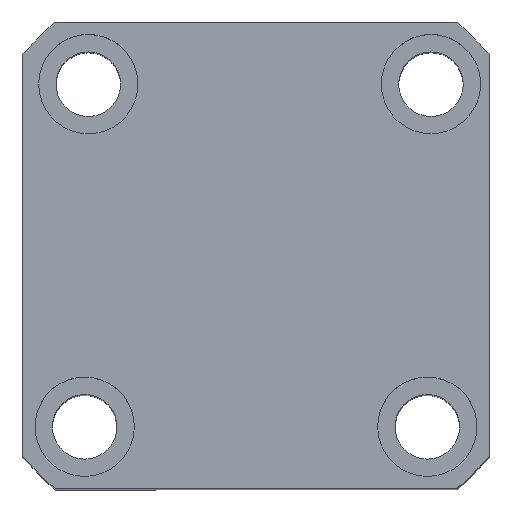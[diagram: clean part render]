
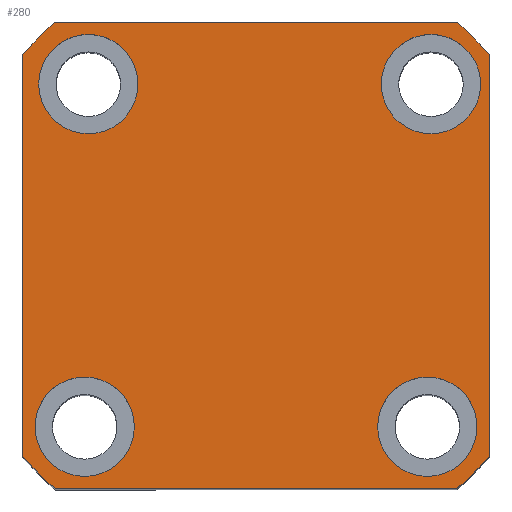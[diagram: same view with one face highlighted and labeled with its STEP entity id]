
A CAD part, top view. The second image highlights one B-rep face of the part: STEP entity #280.
In plain terms, the highlighted planar face has unit normal (0, 0, 1) as drawn and (0, 0, -1) by its records, which use the part's own axes.
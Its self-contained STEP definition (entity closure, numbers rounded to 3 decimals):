
#122 = AXIS2_PLACEMENT_3D ( 'NONE', #4724, #14419, #6133 ) ;
#186 = ORIENTED_EDGE ( 'NONE', *, *, #3274, .F. ) ;
#280 = ADVANCED_FACE ( 'NONE', ( #16568, #16153, #5155, #1495, #15743 ), #1719, .F. ) ;
#302 = CIRCLE ( 'NONE', #15921, 10. ) ;
#514 = CIRCLE ( 'NONE', #8812, 10. ) ;
#608 = DIRECTION ( 'NONE',  ( -1., 0., 0. ) ) ;
#612 = EDGE_CURVE ( 'NONE', #3852, #13703, #7099, .T. ) ;
#655 = DIRECTION ( 'NONE',  ( 1., 0., 0. ) ) ;
#658 = DIRECTION ( 'NONE',  ( -1., 0., 0. ) ) ;
#795 = AXIS2_PLACEMENT_3D ( 'NONE', #16769, #3434, #10312 ) ;
#899 = ORIENTED_EDGE ( 'NONE', *, *, #15005, .F. ) ;
#1146 = CIRCLE ( 'NONE', #6375, 10. ) ;
#1287 = ORIENTED_EDGE ( 'NONE', *, *, #15235, .F. ) ;
#1495 = FACE_BOUND ( 'NONE', #8437, .T. ) ;
#1531 = VERTEX_POINT ( 'NONE', #10647 ) ;
#1542 = LINE ( 'NONE', #12365, #4764 ) ;
#1691 = DIRECTION ( 'NONE',  ( 0., 0., -1. ) ) ;
#1719 = PLANE ( 'NONE',  #795 ) ;
#1720 = VECTOR ( 'NONE', #658, 1000. ) ;
#1858 = CARTESIAN_POINT ( 'NONE',  ( 35.23, -34.5, 0. ) ) ;
#1928 = CIRCLE ( 'NONE', #14465, 62. ) ;
#1970 = CARTESIAN_POINT ( 'NONE',  ( -47., 47., 0. ) ) ;
#2080 = DIRECTION ( 'NONE',  ( -1., 0., 0. ) ) ;
#2138 = DIRECTION ( 'NONE',  ( 0., 0., -1. ) ) ;
#2191 = VERTEX_POINT ( 'NONE', #9361 ) ;
#2252 = CARTESIAN_POINT ( 'NONE',  ( -33.77, -34.5, 0. ) ) ;
#2334 = DIRECTION ( 'NONE',  ( 0., 0., -1. ) ) ;
#2363 = CIRCLE ( 'NONE', #9810, 10. ) ;
#2417 = DIRECTION ( 'NONE',  ( 0., 0., -1. ) ) ;
#2507 = EDGE_LOOP ( 'NONE', ( #1287, #186, #5000, #14074, #13285, #6756, #4768, #3028 ) ) ;
#2651 = CIRCLE ( 'NONE', #13768, 10. ) ;
#2855 = VERTEX_POINT ( 'NONE', #12944 ) ;
#2992 = CARTESIAN_POINT ( 'NONE',  ( -43.77, -34.5, 0. ) ) ;
#3021 = LINE ( 'NONE', #7216, #5810 ) ;
#3028 = ORIENTED_EDGE ( 'NONE', *, *, #3461, .F. ) ;
#3274 = EDGE_CURVE ( 'NONE', #8028, #5774, #3021, .T. ) ;
#3303 = CIRCLE ( 'NONE', #122, 10. ) ;
#3375 = DIRECTION ( 'NONE',  ( 0., 0., 1. ) ) ;
#3408 = ORIENTED_EDGE ( 'NONE', *, *, #11684, .F. ) ;
#3434 = DIRECTION ( 'NONE',  ( 0., 0., 1. ) ) ;
#3461 = EDGE_CURVE ( 'NONE', #11903, #6392, #9057, .T. ) ;
#3588 = VERTEX_POINT ( 'NONE', #17497 ) ;
#3642 = DIRECTION ( 'NONE',  ( -1., 0., 0. ) ) ;
#3755 = VERTEX_POINT ( 'NONE', #6660 ) ;
#3852 = VERTEX_POINT ( 'NONE', #4184 ) ;
#4184 = CARTESIAN_POINT ( 'NONE',  ( 45.23, -34.5, 0. ) ) ;
#4204 = ORIENTED_EDGE ( 'NONE', *, *, #10829, .F. ) ;
#4254 = VERTEX_POINT ( 'NONE', #12991 ) ;
#4262 = EDGE_CURVE ( 'NONE', #2855, #1531, #2363, .T. ) ;
#4278 = EDGE_CURVE ( 'NONE', #3588, #4254, #1928, .T. ) ;
#4411 = CARTESIAN_POINT ( 'NONE',  ( -47., -47., 0. ) ) ;
#4724 = CARTESIAN_POINT ( 'NONE',  ( -34.5, 34.5, 0. ) ) ;
#4764 = VECTOR ( 'NONE', #6889, 1000. ) ;
#4768 = ORIENTED_EDGE ( 'NONE', *, *, #7662, .F. ) ;
#5000 = ORIENTED_EDGE ( 'NONE', *, *, #17628, .F. ) ;
#5155 = FACE_BOUND ( 'NONE', #15081, .T. ) ;
#5637 = AXIS2_PLACEMENT_3D ( 'NONE', #14596, #6307, #15947 ) ;
#5774 = VERTEX_POINT ( 'NONE', #11564 ) ;
#5810 = VECTOR ( 'NONE', #9991, 1000. ) ;
#6006 = AXIS2_PLACEMENT_3D ( 'NONE', #10692, #2417, #12106 ) ;
#6133 = DIRECTION ( 'NONE',  ( -1., 0., 0. ) ) ;
#6248 = AXIS2_PLACEMENT_3D ( 'NONE', #6847, #16468, #8249 ) ;
#6276 = EDGE_CURVE ( 'NONE', #11205, #6970, #8389, .T. ) ;
#6307 = DIRECTION ( 'NONE',  ( 0., 0., 1. ) ) ;
#6375 = AXIS2_PLACEMENT_3D ( 'NONE', #10604, #2334, #12020 ) ;
#6392 = VERTEX_POINT ( 'NONE', #17440 ) ;
#6660 = CARTESIAN_POINT ( 'NONE',  ( -47., 40.435, 0. ) ) ;
#6756 = ORIENTED_EDGE ( 'NONE', *, *, #17197, .F. ) ;
#6847 = CARTESIAN_POINT ( 'NONE',  ( 0., 0., 0. ) ) ;
#6889 = DIRECTION ( 'NONE',  ( 0., -1., 0. ) ) ;
#6970 = VERTEX_POINT ( 'NONE', #2992 ) ;
#7099 = CIRCLE ( 'NONE', #11908, 10. ) ;
#7216 = CARTESIAN_POINT ( 'NONE',  ( 47., 47., 0. ) ) ;
#7255 = ORIENTED_EDGE ( 'NONE', *, *, #6276, .F. ) ;
#7642 = CARTESIAN_POINT ( 'NONE',  ( 0., 0., 0. ) ) ;
#7662 = EDGE_CURVE ( 'NONE', #6392, #3755, #13529, .T. ) ;
#8028 = VERTEX_POINT ( 'NONE', #9912 ) ;
#8039 = DIRECTION ( 'NONE',  ( 0., 0., -1. ) ) ;
#8249 = DIRECTION ( 'NONE',  ( 1., 0., 0. ) ) ;
#8332 = CARTESIAN_POINT ( 'NONE',  ( 40.435, 47., 0. ) ) ;
#8389 = CIRCLE ( 'NONE', #6006, 10. ) ;
#8437 = EDGE_LOOP ( 'NONE', ( #9140, #3408 ) ) ;
#8812 = AXIS2_PLACEMENT_3D ( 'NONE', #16263, #8039, #17637 ) ;
#8855 = DIRECTION ( 'NONE',  ( 0., 0., -1. ) ) ;
#9021 = DIRECTION ( 'NONE',  ( 1., 0., 0. ) ) ;
#9057 = LINE ( 'NONE', #1970, #1720 ) ;
#9140 = ORIENTED_EDGE ( 'NONE', *, *, #13759, .F. ) ;
#9239 = AXIS2_PLACEMENT_3D ( 'NONE', #7642, #17257, #9021 ) ;
#9361 = CARTESIAN_POINT ( 'NONE',  ( 40.435, -47., 0. ) ) ;
#9810 = AXIS2_PLACEMENT_3D ( 'NONE', #17093, #8855, #608 ) ;
#9912 = CARTESIAN_POINT ( 'NONE',  ( 47., -40.435, 0. ) ) ;
#9943 = ORIENTED_EDGE ( 'NONE', *, *, #612, .F. ) ;
#9991 = DIRECTION ( 'NONE',  ( 0., 1., 0. ) ) ;
#10208 = CIRCLE ( 'NONE', #5637, 62. ) ;
#10312 = DIRECTION ( 'NONE',  ( 1., 0., 0. ) ) ;
#10401 = CIRCLE ( 'NONE', #9239, 62. ) ;
#10413 = CARTESIAN_POINT ( 'NONE',  ( 34.5, 34.5, 0. ) ) ;
#10604 = CARTESIAN_POINT ( 'NONE',  ( 35.23, -34.5, 0. ) ) ;
#10647 = CARTESIAN_POINT ( 'NONE',  ( -44.5, 34.5, 0. ) ) ;
#10692 = CARTESIAN_POINT ( 'NONE',  ( -33.77, -34.5, 0. ) ) ;
#10829 = EDGE_CURVE ( 'NONE', #13703, #3852, #1146, .T. ) ;
#10932 = EDGE_LOOP ( 'NONE', ( #4204, #9943 ) ) ;
#11205 = VERTEX_POINT ( 'NONE', #17663 ) ;
#11564 = CARTESIAN_POINT ( 'NONE',  ( 47., 40.435, 0. ) ) ;
#11657 = CARTESIAN_POINT ( 'NONE',  ( 0., 0., 0. ) ) ;
#11684 = EDGE_CURVE ( 'NONE', #14163, #14746, #514, .T. ) ;
#11823 = DIRECTION ( 'NONE',  ( -1., 0., 0. ) ) ;
#11903 = VERTEX_POINT ( 'NONE', #8332 ) ;
#11908 = AXIS2_PLACEMENT_3D ( 'NONE', #1858, #1691, #2080 ) ;
#11929 = DIRECTION ( 'NONE',  ( 0., 0., -1. ) ) ;
#12020 = DIRECTION ( 'NONE',  ( -1., 0., 0. ) ) ;
#12106 = DIRECTION ( 'NONE',  ( -1., 0., 0. ) ) ;
#12335 = ORIENTED_EDGE ( 'NONE', *, *, #14447, .F. ) ;
#12365 = CARTESIAN_POINT ( 'NONE',  ( -47., 47., 0. ) ) ;
#12944 = CARTESIAN_POINT ( 'NONE',  ( -24.5, 34.5, 0. ) ) ;
#12991 = CARTESIAN_POINT ( 'NONE',  ( -40.435, -47., 0. ) ) ;
#13056 = DIRECTION ( 'NONE',  ( 1., 0., 0. ) ) ;
#13285 = ORIENTED_EDGE ( 'NONE', *, *, #4278, .F. ) ;
#13529 = CIRCLE ( 'NONE', #6248, 62. ) ;
#13703 = VERTEX_POINT ( 'NONE', #14530 ) ;
#13759 = EDGE_CURVE ( 'NONE', #14746, #14163, #302, .T. ) ;
#13768 = AXIS2_PLACEMENT_3D ( 'NONE', #2252, #11929, #3642 ) ;
#14074 = ORIENTED_EDGE ( 'NONE', *, *, #17518, .F. ) ;
#14163 = VERTEX_POINT ( 'NONE', #15399 ) ;
#14419 = DIRECTION ( 'NONE',  ( 0., 0., -1. ) ) ;
#14447 = EDGE_CURVE ( 'NONE', #6970, #11205, #2651, .T. ) ;
#14465 = AXIS2_PLACEMENT_3D ( 'NONE', #11657, #3375, #13056 ) ;
#14519 = VECTOR ( 'NONE', #655, 1000. ) ;
#14530 = CARTESIAN_POINT ( 'NONE',  ( 25.23, -34.5, 0. ) ) ;
#14596 = CARTESIAN_POINT ( 'NONE',  ( 0., 0., 0. ) ) ;
#14746 = VERTEX_POINT ( 'NONE', #17755 ) ;
#15005 = EDGE_CURVE ( 'NONE', #1531, #2855, #3303, .T. ) ;
#15068 = ORIENTED_EDGE ( 'NONE', *, *, #4262, .F. ) ;
#15081 = EDGE_LOOP ( 'NONE', ( #899, #15068 ) ) ;
#15235 = EDGE_CURVE ( 'NONE', #5774, #11903, #10208, .T. ) ;
#15399 = CARTESIAN_POINT ( 'NONE',  ( 44.5, 34.5, 0. ) ) ;
#15743 = FACE_OUTER_BOUND ( 'NONE', #2507, .T. ) ;
#15921 = AXIS2_PLACEMENT_3D ( 'NONE', #10413, #2138, #11823 ) ;
#15947 = DIRECTION ( 'NONE',  ( 1., 0., 0. ) ) ;
#16153 = FACE_BOUND ( 'NONE', #16974, .T. ) ;
#16263 = CARTESIAN_POINT ( 'NONE',  ( 34.5, 34.5, 0. ) ) ;
#16468 = DIRECTION ( 'NONE',  ( 0., 0., 1. ) ) ;
#16568 = FACE_BOUND ( 'NONE', #10932, .T. ) ;
#16769 = CARTESIAN_POINT ( 'NONE',  ( 0., 0., 0. ) ) ;
#16974 = EDGE_LOOP ( 'NONE', ( #12335, #7255 ) ) ;
#17093 = CARTESIAN_POINT ( 'NONE',  ( -34.5, 34.5, 0. ) ) ;
#17197 = EDGE_CURVE ( 'NONE', #3755, #3588, #1542, .T. ) ;
#17257 = DIRECTION ( 'NONE',  ( 0., 0., 1. ) ) ;
#17440 = CARTESIAN_POINT ( 'NONE',  ( -40.435, 47., 0. ) ) ;
#17497 = CARTESIAN_POINT ( 'NONE',  ( -47., -40.435, 0. ) ) ;
#17518 = EDGE_CURVE ( 'NONE', #4254, #2191, #17688, .T. ) ;
#17628 = EDGE_CURVE ( 'NONE', #2191, #8028, #10401, .T. ) ;
#17637 = DIRECTION ( 'NONE',  ( -1., 0., 0. ) ) ;
#17663 = CARTESIAN_POINT ( 'NONE',  ( -23.77, -34.5, 0. ) ) ;
#17688 = LINE ( 'NONE', #4411, #14519 ) ;
#17755 = CARTESIAN_POINT ( 'NONE',  ( 24.5, 34.5, 0. ) ) ;
